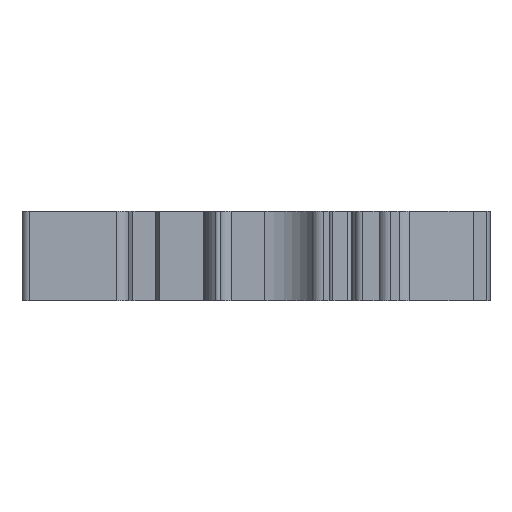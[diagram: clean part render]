
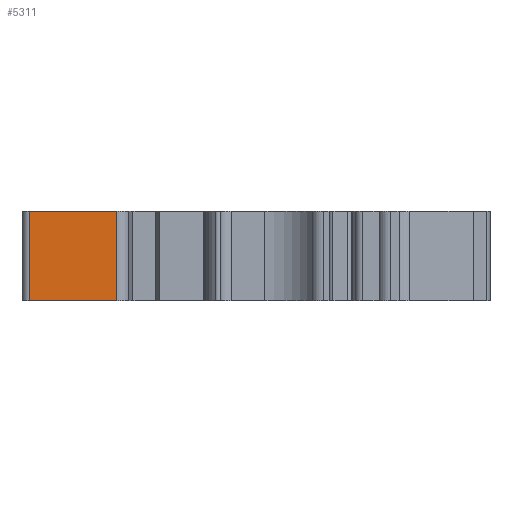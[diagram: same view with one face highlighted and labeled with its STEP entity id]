
A CAD part, front view. The second image highlights one B-rep face of the part: STEP entity #5311.
In plain terms, the highlighted planar face has unit normal (0, -1, 0).
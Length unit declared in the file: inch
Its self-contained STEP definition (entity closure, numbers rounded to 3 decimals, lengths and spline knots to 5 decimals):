
#120=DIRECTION('',(1.,0.,0.));
#121=VECTOR('',#120,11.7);
#122=CARTESIAN_POINT('',(-16.95388,-32.18732,0.));
#123=LINE('',#122,#121);
#629=DIRECTION('',(0.,0.,1.));
#630=VECTOR('',#629,12.);
#631=CARTESIAN_POINT('',(-5.25388,-32.18732,0.));
#632=LINE('',#631,#630);
#633=DIRECTION('',(0.,0.,1.));
#634=VECTOR('',#633,12.);
#635=CARTESIAN_POINT('',(-16.95388,-32.18732,0.));
#636=LINE('',#635,#634);
#1010=DIRECTION('',(1.,0.,0.));
#1011=VECTOR('',#1010,11.7);
#1012=CARTESIAN_POINT('',(-16.95388,-32.18732,12.));
#1013=LINE('',#1012,#1011);
#3249=CARTESIAN_POINT('',(-16.95388,-32.18732,0.));
#3250=VERTEX_POINT('',#3249);
#3251=CARTESIAN_POINT('',(-5.25388,-32.18732,0.));
#3252=VERTEX_POINT('',#3251);
#3429=CARTESIAN_POINT('',(-16.95388,-32.18732,12.));
#3430=VERTEX_POINT('',#3429);
#3431=CARTESIAN_POINT('',(-5.25388,-32.18732,12.));
#3432=VERTEX_POINT('',#3431);
#5298=CARTESIAN_POINT('',(-16.95388,-32.18732,0.));
#5299=DIRECTION('',(0.,-1.,0.));
#5300=DIRECTION('',(1.,0.,0.));
#5301=AXIS2_PLACEMENT_3D('',#5298,#5299,#5300);
#5302=PLANE('',#5301);
#5303=ORIENTED_EDGE('',*,*,#4302,.F.);
#5305=ORIENTED_EDGE('',*,*,#5304,.T.);
#5307=ORIENTED_EDGE('',*,*,#5306,.T.);
#5308=ORIENTED_EDGE('',*,*,#5290,.F.);
#5309=EDGE_LOOP('',(#5303,#5305,#5307,#5308));
#5310=FACE_OUTER_BOUND('',#5309,.F.);
#5311=ADVANCED_FACE('',(#5310),#5302,.T.);
#4302=EDGE_CURVE('',#3250,#3252,#123,.T.);
#5290=EDGE_CURVE('',#3252,#3432,#632,.T.);
#5304=EDGE_CURVE('',#3250,#3430,#636,.T.);
#5306=EDGE_CURVE('',#3430,#3432,#1013,.T.);
